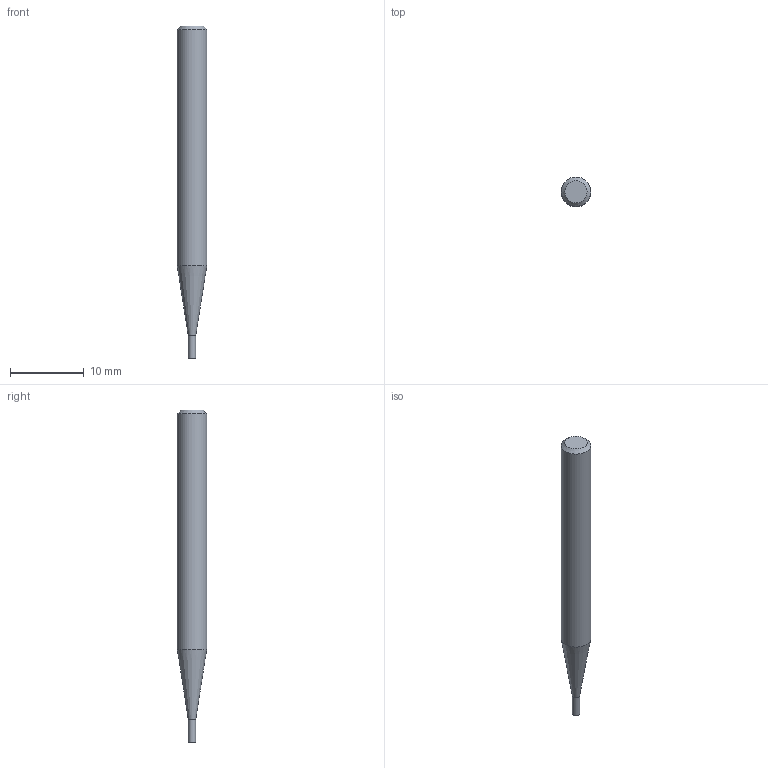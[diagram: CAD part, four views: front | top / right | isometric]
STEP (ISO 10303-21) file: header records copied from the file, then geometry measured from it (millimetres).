
FILE_DESCRIPTION((''),'2;1');
FILE_NAME('C:\Users\nsx150\AppData\Local\Temp\Mastercam 2021\W9Z147XDNF\TEMP.step','2021-04-08T14:43:24',(''),(''),'STEP Write','Mastercam 2021 ... CNC Software, Inc.','');
FILE_SCHEMA(('AUTOMOTIVE_DESIGN'));
Length unit declared in the file: millimetre
Products named in the file (1): None
Bounding box: 4 x 4 x 45 mm (x, y, z)
Volume: 461.8 mm3; surface area: 504.4 mm2
Topology: 2 solids, 2 shells, 8 faces, 10 edges, 6 vertices
Faces by surface type: plane 4, cylinder 2, cone 2
Full cylindrical faces by diameter (mm): 1 x1, 4 x1
Entity records: 190 total; most frequent: DIRECTION 32, CARTESIAN_POINT 22, AXIS2_PLACEMENT_3D 16, ORIENTED_EDGE 12, EDGE_LOOP 12, STYLED_ITEM 11, ADVANCED_FACE 8, VERTEX_POINT 6
